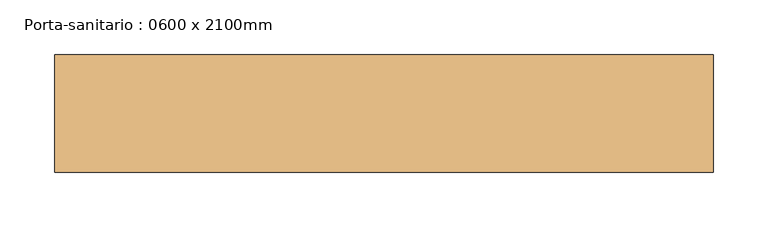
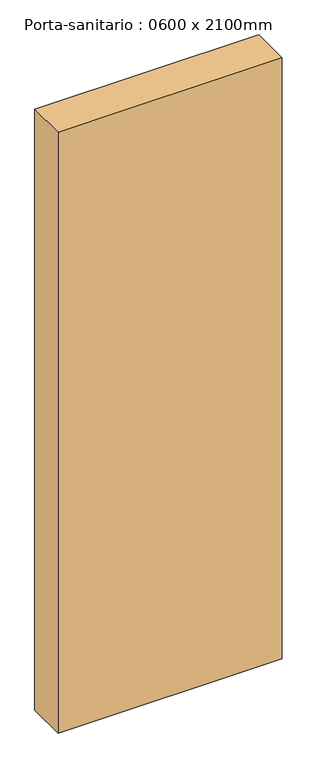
"""IFC4 building model written with IfcOpenShell, lengths in millimetres: door geometry, Porta-sanitario : 0600 x 2100mm."""

from ifc_helpers import new_model, si_unit, frame, origin, place, context, project, spatial, polyline, outline, extrude, source, transform, mapped, element, save


def porta_sanitario_0600_x_2100mm_3094f655(model_context):
    return source(origin(), model_context, "Body", "SweptSolid", [
        extrude(outline(polyline([(300.0, 31.0), (300.0, -76.2), (-300.0, -76.2), (-300.0, 31.0), (300.0, 31.0)])), frame((0.0, 0.0, 300.0), z_axis=(0.0, 0.0, 1.0), x_axis=(1.0, 0.0, 0.0)), (0.0, 0.0, 1.0), 1700.0),
    ])


if __name__ == "__main__":
    model = new_model("IFC4")
    model_context = context("Model", 3, world=origin())
    ifc_project = project(units=[si_unit("LENGTHUNIT", "METRE", prefix="MILLI")], contexts=[model_context])
    site = spatial("IfcSite", under=ifc_project)
    building = spatial("IfcBuilding", under=site)
    placement = place(None, origin())
    porta_sanitario_0600_x_2100mm_shape = porta_sanitario_0600_x_2100mm_3094f655(model_context)
    element("IfcDoor", 1, ObjectType="Porta-sanitario : 0600 x 2100mm", at=placement, inside=building, context=model_context, shape_type="MappedRepresentation", body=[
        mapped(porta_sanitario_0600_x_2100mm_shape, transform((0.0, 0.0, 0.0), x_axis=(1.0, 0.0, 0.0), y_axis=(0.0, 1.0, 0.0), z_axis=(0.0, 0.0, 1.0))),
    ])
    save(model, "model.ifc")
